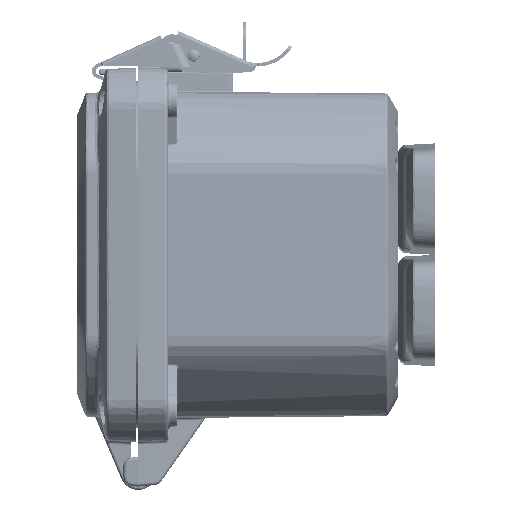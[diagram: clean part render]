
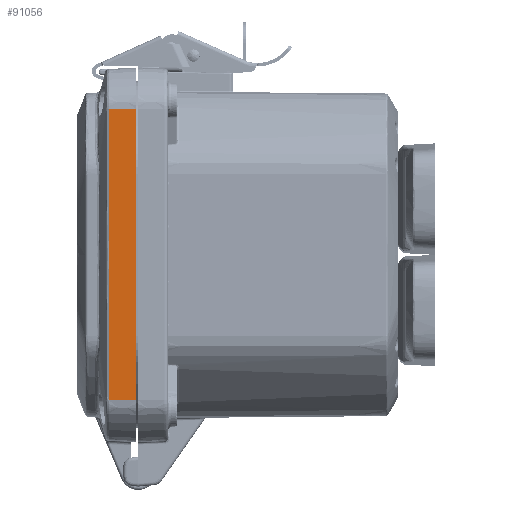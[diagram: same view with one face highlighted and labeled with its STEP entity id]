
A CAD part, left-side view. The second image highlights one B-rep face of the part: STEP entity #91056.
In plain terms, the highlighted planar face has unit normal (-0.999, 0.052, 0).
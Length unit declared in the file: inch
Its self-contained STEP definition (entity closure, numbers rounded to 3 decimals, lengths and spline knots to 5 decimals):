
#719 = CARTESIAN_POINT ( 'NONE',  ( -3.5009, 0.36452, 1.67208 ) ) ;
#11757 = VECTOR ( 'NONE', #214388, 39.37008 ) ;
#22086 = CARTESIAN_POINT ( 'NONE',  ( -3.50093, 0.36394, 1.95755 ) ) ;
#26160 = CARTESIAN_POINT ( 'NONE',  ( -3.50089, 0.36464, -1.87599 ) ) ;
#31494 = VERTEX_POINT ( 'NONE', #22086 ) ;
#37617 = CARTESIAN_POINT ( 'NONE',  ( -3.5009, 0.36442, 1.14191 ) ) ;
#38737 = CARTESIAN_POINT ( 'NONE',  ( -3.50089, 0.36462, 0.00001 ) ) ;
#43442 = ORIENTED_EDGE ( 'NONE', *, *, #167465, .T. ) ;
#44667 = EDGE_CURVE ( 'NONE', #135595, #194216, #216434, .T. ) ;
#45213 = CARTESIAN_POINT ( 'NONE',  ( -3.5009, 0.36452, -1.67208 ) ) ;
#46230 = EDGE_LOOP ( 'NONE', ( #183087, #234428, #43442, #180606, #61017 ) ) ;
#47577 = EDGE_CURVE ( 'NONE', #31494, #135595, #234008, .T. ) ;
#50049 = CARTESIAN_POINT ( 'NONE',  ( -3.50093, 0.36394, -1.95755 ) ) ;
#57982 = CARTESIAN_POINT ( 'NONE',  ( -3.5009, 0.36451, 1.93716 ) ) ;
#60489 = CARTESIAN_POINT ( 'NONE',  ( -3.50089, 0.36462, 0.00001 ) ) ;
#61017 = ORIENTED_EDGE ( 'NONE', *, *, #80510, .F. ) ;
#70435 = DIRECTION ( 'NONE',  ( -0.052, -0.999, 0. ) ) ;
#72132 = DIRECTION ( 'NONE',  ( -0.052, -0.999, 0. ) ) ;
#74298 = CARTESIAN_POINT ( 'NONE',  ( -3.5009, 0.36451, -1.93716 ) ) ;
#76307 = CARTESIAN_POINT ( 'NONE',  ( -3.52, 0., -1.95755 ) ) ;
#79528 = CARTESIAN_POINT ( 'NONE',  ( -3.50089, 0.3646, 1.81482 ) ) ;
#80510 = EDGE_CURVE ( 'NONE', #31494, #223708, #209384, .T. ) ;
#83357 = CARTESIAN_POINT ( 'NONE',  ( -3.50089, 0.36457, -0.32625 ) ) ;
#91056 = ADVANCED_FACE ( 'NONE', ( #112289 ), #227883, .T. ) ;
#92427 = LINE ( 'NONE', #206747, #113926 ) ;
#93355 = CARTESIAN_POINT ( 'NONE',  ( -3.50093, 0.36394, -1.95755 ) ) ;
#97300 = CARTESIAN_POINT ( 'NONE',  ( -3.50089, 0.36464, 1.87599 ) ) ;
#99806 = CARTESIAN_POINT ( 'NONE',  ( -3.50093, 0.36394, 1.95755 ) ) ;
#103679 = CARTESIAN_POINT ( 'NONE',  ( -3.50089, 0.36467, -1.90658 ) ) ;
#112289 = FACE_OUTER_BOUND ( 'NONE', #46230, .T. ) ;
#113926 = VECTOR ( 'NONE', #72132, 39.37008 ) ;
#117657 = CARTESIAN_POINT ( 'NONE',  ( -3.5009, 0.36447, 0.65252 ) ) ;
#120150 = CARTESIAN_POINT ( 'NONE',  ( -3.5009, 0.36448, 1.54973 ) ) ;
#122086 = DIRECTION ( 'NONE',  ( 0., 0., 1. ) ) ;
#122721 = CARTESIAN_POINT ( 'NONE',  ( -3.50089, 0.3646, -1.81482 ) ) ;
#130092 = CARTESIAN_POINT ( 'NONE',  ( -3.52, 0., -1.95755 ) ) ;
#135595 = VERTEX_POINT ( 'NONE', #38737 ) ;
#136738 = CARTESIAN_POINT ( 'NONE',  ( -3.50089, 0.36467, 1.90658 ) ) ;
#137990 = CARTESIAN_POINT ( 'NONE',  ( -3.50089, 0.36457, 0.32626 ) ) ;
#141204 = LINE ( 'NONE', #218615, #219854 ) ;
#141838 = CARTESIAN_POINT ( 'NONE',  ( -3.5009, 0.36442, -1.30503 ) ) ;
#143016 = VERTEX_POINT ( 'NONE', #76307 ) ;
#153544 = CARTESIAN_POINT ( 'NONE',  ( -3.52, 0., 1.95755 ) ) ;
#155788 = CARTESIAN_POINT ( 'NONE',  ( -3.5009, 0.36442, 1.30504 ) ) ;
#160885 = CARTESIAN_POINT ( 'NONE',  ( -3.5009, 0.36447, -0.65251 ) ) ;
#163397 = AXIS2_PLACEMENT_3D ( 'NONE', #130092, #244531, #70435 ) ;
#167465 = EDGE_CURVE ( 'NONE', #194216, #143016, #92427, .T. ) ;
#178573 = CARTESIAN_POINT ( 'NONE',  ( -3.50091, 0.36428, 1.94736 ) ) ;
#180606 = ORIENTED_EDGE ( 'NONE', *, *, #229905, .T. ) ;
#181167 = CARTESIAN_POINT ( 'NONE',  ( -3.50089, 0.36472, -1.91677 ) ) ;
#183087 = ORIENTED_EDGE ( 'NONE', *, *, #47577, .T. ) ;
#194216 = VERTEX_POINT ( 'NONE', #50049 ) ;
#195091 = CARTESIAN_POINT ( 'NONE',  ( -3.50089, 0.36472, 1.91677 ) ) ;
#198934 = CARTESIAN_POINT ( 'NONE',  ( -3.50089, 0.36462, 0.00001 ) ) ;
#206747 = CARTESIAN_POINT ( 'NONE',  ( -3.52, 0., -1.95755 ) ) ;
#209384 = LINE ( 'NONE', #153544, #11757 ) ;
#214388 = DIRECTION ( 'NONE',  ( -0.052, -0.999, 0. ) ) ;
#216434 = B_SPLINE_CURVE_WITH_KNOTS ( 'NONE', 3,
 ( #198934, #83357, #160885, #238391, #141838, #219241, #45213, #122721, #26160, #103679, #181167, #74298, #226813, #93355 ),
 .UNSPECIFIED., .F., .F.,
 ( 4, 2, 2, 1, 1, 2, 2, 4 ),
 ( 0., 0.02486, 0.03729, 0.04351, 0.04661, 0.04817, 0.04895, 0.04972 ),
 .UNSPECIFIED. ) ;
#218615 = CARTESIAN_POINT ( 'NONE',  ( -3.52, 0., -1.95755 ) ) ;
#219241 = CARTESIAN_POINT ( 'NONE',  ( -3.5009, 0.36448, -1.54973 ) ) ;
#219854 = VECTOR ( 'NONE', #122086, 39.37008 ) ;
#223708 = VERTEX_POINT ( 'NONE', #236395 ) ;
#226813 = CARTESIAN_POINT ( 'NONE',  ( -3.50091, 0.36428, -1.94736 ) ) ;
#227883 = PLANE ( 'NONE',  #163397 ) ;
#229905 = EDGE_CURVE ( 'NONE', #143016, #223708, #141204, .T. ) ;
#234008 = B_SPLINE_CURVE_WITH_KNOTS ( 'NONE', 3,
 ( #99806, #178573, #57982, #195091, #136738, #97300, #79528, #719, #120150, #155788, #37617, #117657, #137990, #60489 ),
 .UNSPECIFIED., .F., .F.,
 ( 4, 2, 2, 1, 1, 2, 2, 4 ),
 ( 0., 0.00078, 0.00155, 0.00311, 0.00622, 0.01243, 0.02486, 0.04972 ),
 .UNSPECIFIED. ) ;
#234428 = ORIENTED_EDGE ( 'NONE', *, *, #44667, .T. ) ;
#236395 = CARTESIAN_POINT ( 'NONE',  ( -3.52, 0., 1.95755 ) ) ;
#238391 = CARTESIAN_POINT ( 'NONE',  ( -3.5009, 0.36442, -1.1419 ) ) ;
#244531 = DIRECTION ( 'NONE',  ( -0.999, 0.052, 0. ) ) ;
